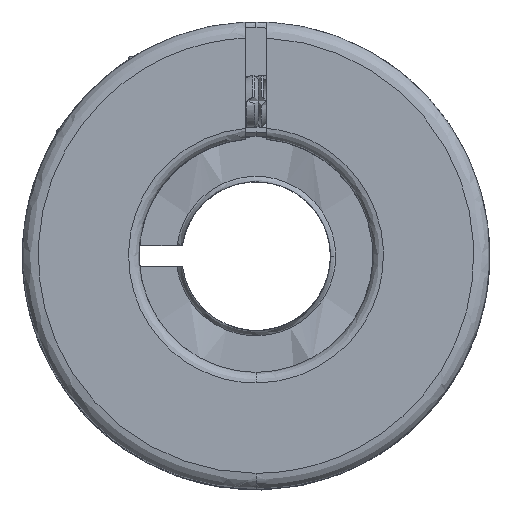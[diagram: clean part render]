
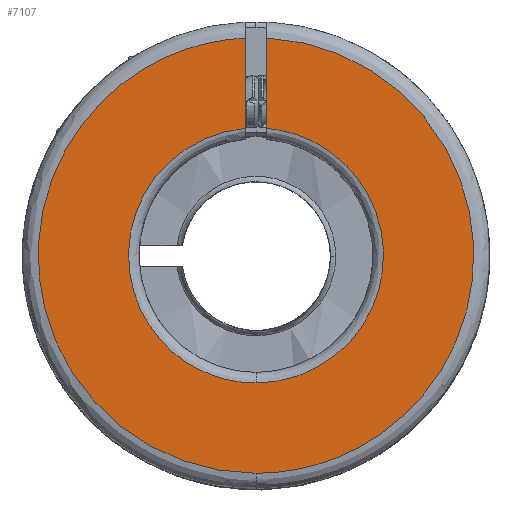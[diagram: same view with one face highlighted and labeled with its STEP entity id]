
A CAD part, top view. The second image highlights one B-rep face of the part: STEP entity #7107.
In plain terms, the highlighted planar face has unit normal (0, 0, 1).
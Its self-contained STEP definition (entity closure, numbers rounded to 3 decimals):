
#281 = CARTESIAN_POINT ( 'NONE',  ( -1.172, -8.326, 31.541 ) ) ;
#283 =( BOUNDED_CURVE ( )  B_SPLINE_CURVE ( 3, ( #319, #318, #317, #316 ),
 .UNSPECIFIED., .F., .F. ) 
 B_SPLINE_CURVE_WITH_KNOTS ( ( 4, 4 ),
 ( 0., 1. ),
 .UNSPECIFIED. ) 
 CURVE ( )  GEOMETRIC_REPRESENTATION_ITEM ( )  RATIONAL_B_SPLINE_CURVE ( ( 1., 0.361, 0.361, 1. ) ) 
 REPRESENTATION_ITEM ( '' )  );
#284 = DIRECTION ( 'NONE',  ( 0., 1., 0. ) ) ;
#285 = DIRECTION ( 'NONE',  ( 0., 0., -1. ) ) ;
#286 = CARTESIAN_POINT ( 'NONE',  ( -1.172, 3.674, 31.541 ) ) ;
#287 = AXIS2_PLACEMENT_3D ( 'NONE', #286, #285, #284 ) ;
#288 = PLANE ( 'NONE',  #287 ) ;
#289 = FACE_OUTER_BOUND ( 'NONE', #7108, .T. ) ;
#294 = CARTESIAN_POINT ( 'NONE',  ( -1.172, -8.326, 31.541 ) ) ;
#295 = CARTESIAN_POINT ( 'NONE',  ( -23.305, -8.326, 31.541 ) ) ;
#296 = CARTESIAN_POINT ( 'NONE',  ( -24.228, 13.788, 31.541 ) ) ;
#297 = CARTESIAN_POINT ( 'NONE',  ( -2.172, 15.632, 31.541 ) ) ;
#298 =( BOUNDED_CURVE ( )  B_SPLINE_CURVE ( 3, ( #297, #296, #295, #294 ),
 .UNSPECIFIED., .F., .T. ) 
 B_SPLINE_CURVE_WITH_KNOTS ( ( 4, 4 ),
 ( 0., 1. ),
 .UNSPECIFIED. ) 
 CURVE ( )  GEOMETRIC_REPRESENTATION_ITEM ( )  RATIONAL_B_SPLINE_CURVE ( ( 1., 0.361, 0.361, 1. ) ) 
 REPRESENTATION_ITEM ( '' )  );
#316 = CARTESIAN_POINT ( 'NONE',  ( -0.172, 15.632, 31.541 ) ) ;
#317 = CARTESIAN_POINT ( 'NONE',  ( 21.885, 13.788, 31.541 ) ) ;
#318 = CARTESIAN_POINT ( 'NONE',  ( 20.962, -8.326, 31.541 ) ) ;
#319 = CARTESIAN_POINT ( 'NONE',  ( -1.172, -8.326, 31.541 ) ) ;
#6497 = VERTEX_POINT ( 'NONE', #12996 ) ;
#6499 = EDGE_CURVE ( 'NONE', #6497, #6505, #12995, .T. ) ;
#6505 = VERTEX_POINT ( 'NONE', #13029 ) ;
#6507 = EDGE_CURVE ( 'NONE', #6505, #6508, #13031, .T. ) ;
#6508 = VERTEX_POINT ( 'NONE', #13048 ) ;
#6548 = EDGE_CURVE ( 'NONE', #6549, #6560, #13138, .T. ) ;
#6549 = VERTEX_POINT ( 'NONE', #13132 ) ;
#6560 = VERTEX_POINT ( 'NONE', #13172 ) ;
#6562 = EDGE_CURVE ( 'NONE', #6560, #6497, #13168, .T. ) ;
#7088 = ORIENTED_EDGE ( 'NONE', *, *, #7102, .F. ) ;
#7089 = ORIENTED_EDGE ( 'NONE', *, *, #6507, .F. ) ;
#7090 = ORIENTED_EDGE ( 'NONE', *, *, #6499, .F. ) ;
#7091 = ORIENTED_EDGE ( 'NONE', *, *, #6562, .F. ) ;
#7092 = ORIENTED_EDGE ( 'NONE', *, *, #6548, .F. ) ;
#7102 = EDGE_CURVE ( 'NONE', #6508, #7103, #298, .T. ) ;
#7103 = VERTEX_POINT ( 'NONE', #281 ) ;
#7107 = ADVANCED_FACE ( 'NONE', ( #289 ), #288, .F. ) ;
#7108 = EDGE_LOOP ( 'NONE', ( #7109, #7088, #7089, #7090, #7091, #7092 ) ) ;
#7109 = ORIENTED_EDGE ( 'NONE', *, *, #7110, .F. ) ;
#7110 = EDGE_CURVE ( 'NONE', #7103, #6549, #283, .T. ) ;
#12990 = CARTESIAN_POINT ( 'NONE',  ( -2.172, 24.15, 31.541 ) ) ;
#12991 = CARTESIAN_POINT ( 'NONE',  ( -41.206, 22.243, 31.541 ) ) ;
#12992 = CARTESIAN_POINT ( 'NONE',  ( -40.252, -16.826, 31.541 ) ) ;
#12993 = CARTESIAN_POINT ( 'NONE',  ( -1.172, -16.826, 31.541 ) ) ;
#12995 =( BOUNDED_CURVE ( )  B_SPLINE_CURVE ( 3, ( #12993, #12992, #12991, #12990 ),
 .UNSPECIFIED., .F., .F. ) 
 B_SPLINE_CURVE_WITH_KNOTS ( ( 4, 4 ),
 ( 0., 1. ),
 .UNSPECIFIED. ) 
 CURVE ( )  GEOMETRIC_REPRESENTATION_ITEM ( )  RATIONAL_B_SPLINE_CURVE ( ( 1., 0.35, 0.35, 1. ) ) 
 REPRESENTATION_ITEM ( '' )  );
#12996 = CARTESIAN_POINT ( 'NONE',  ( -1.172, -16.826, 31.541 ) ) ;
#13029 = CARTESIAN_POINT ( 'NONE',  ( -2.172, 24.15, 31.541 ) ) ;
#13031 = LINE ( 'NONE', #13061, #13049 ) ;
#13048 = CARTESIAN_POINT ( 'NONE',  ( -2.172, 15.632, 31.541 ) ) ;
#13049 = VECTOR ( 'NONE', #13060, 1000. ) ;
#13060 = DIRECTION ( 'NONE',  ( 0., -1., 0. ) ) ;
#13061 = CARTESIAN_POINT ( 'NONE',  ( -2.172, 3.674, 31.541 ) ) ;
#13132 = CARTESIAN_POINT ( 'NONE',  ( -0.172, 15.632, 31.541 ) ) ;
#13133 = DIRECTION ( 'NONE',  ( 0., 1., 0. ) ) ;
#13134 = VECTOR ( 'NONE', #13133, 1000. ) ;
#13135 = CARTESIAN_POINT ( 'NONE',  ( -0.172, 3.674, 31.541 ) ) ;
#13138 = LINE ( 'NONE', #13135, #13134 ) ;
#13168 =( BOUNDED_CURVE ( )  B_SPLINE_CURVE ( 3, ( #13206, #13205, #13204, #13203 ),
 .UNSPECIFIED., .F., .T. ) 
 B_SPLINE_CURVE_WITH_KNOTS ( ( 4, 4 ),
 ( 0., 1. ),
 .UNSPECIFIED. ) 
 CURVE ( )  GEOMETRIC_REPRESENTATION_ITEM ( )  RATIONAL_B_SPLINE_CURVE ( ( 1., 0.35, 0.35, 1. ) ) 
 REPRESENTATION_ITEM ( '' )  );
#13172 = CARTESIAN_POINT ( 'NONE',  ( -0.172, 24.15, 31.541 ) ) ;
#13203 = CARTESIAN_POINT ( 'NONE',  ( -1.172, -16.826, 31.541 ) ) ;
#13204 = CARTESIAN_POINT ( 'NONE',  ( 37.909, -16.826, 31.541 ) ) ;
#13205 = CARTESIAN_POINT ( 'NONE',  ( 38.863, 22.243, 31.541 ) ) ;
#13206 = CARTESIAN_POINT ( 'NONE',  ( -0.172, 24.15, 31.541 ) ) ;
